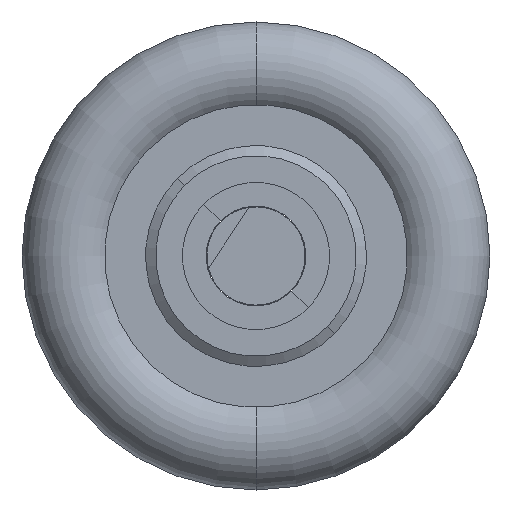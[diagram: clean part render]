
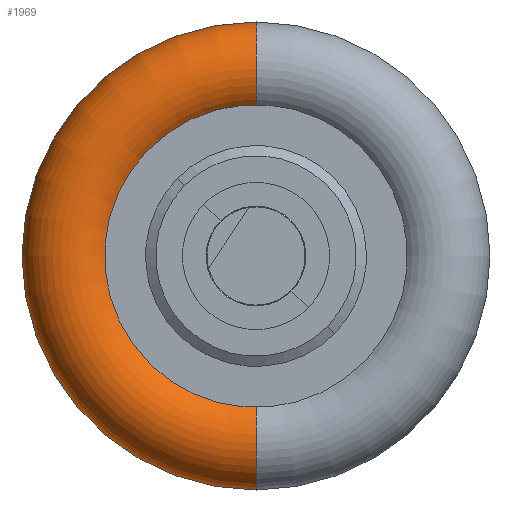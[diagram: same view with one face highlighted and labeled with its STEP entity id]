
A CAD part, left-side view. The second image highlights one B-rep face of the part: STEP entity #1969.
In plain terms, the highlighted toroidal (fillet/blend) face has major radius 22.727 mm and minor radius 5.875 mm.
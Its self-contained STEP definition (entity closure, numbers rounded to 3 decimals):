
#4 = VERTEX_POINT ( 'NONE', #2280 ) ;
#249 = AXIS2_PLACEMENT_3D ( 'NONE', #683, #1407, #2097 ) ;
#256 = EDGE_CURVE ( 'NONE', #894, #2054, #2323, .T. ) ;
#366 = DIRECTION ( 'NONE',  ( 0., 0., -1. ) ) ;
#380 = AXIS2_PLACEMENT_3D ( 'NONE', #739, #2009, #366 ) ;
#407 = CIRCLE ( 'NONE', #1979, 5.875 ) ;
#585 = VERTEX_POINT ( 'NONE', #1508 ) ;
#675 = AXIS2_PLACEMENT_3D ( 'NONE', #1976, #720, #1428 ) ;
#683 = CARTESIAN_POINT ( 'NONE',  ( 6631.588, -411.111, 22.727 ) ) ;
#720 = DIRECTION ( 'NONE',  ( 1., 0., 0. ) ) ;
#739 = CARTESIAN_POINT ( 'NONE',  ( 6631.588, -411.111, 0. ) ) ;
#894 = VERTEX_POINT ( 'NONE', #1347 ) ;
#1167 = CIRCLE ( 'NONE', #675, 17.002 ) ;
#1262 = EDGE_CURVE ( 'NONE', #585, #4, #1167, .T. ) ;
#1339 = DIRECTION ( 'NONE',  ( 0., -1., 0. ) ) ;
#1347 = CARTESIAN_POINT ( 'NONE',  ( 6631.588, -411.111, -28.602 ) ) ;
#1407 = DIRECTION ( 'NONE',  ( 0., 1., 0. ) ) ;
#1416 = TOROIDAL_SURFACE ( 'NONE', #380, 22.727, 5.875 ) ;
#1428 = DIRECTION ( 'NONE',  ( 0., 0., -1. ) ) ;
#1440 = DIRECTION ( 'NONE',  ( 1., 0., 0. ) ) ;
#1456 = ORIENTED_EDGE ( 'NONE', *, *, #1476, .F. ) ;
#1476 = EDGE_CURVE ( 'NONE', #585, #894, #407, .T. ) ;
#1508 = CARTESIAN_POINT ( 'NONE',  ( 6630.268, -411.111, -17.002 ) ) ;
#1535 = EDGE_CURVE ( 'NONE', #4, #2054, #1671, .T. ) ;
#1566 = ORIENTED_EDGE ( 'NONE', *, *, #1535, .T. ) ;
#1671 = CIRCLE ( 'NONE', #249, 5.875 ) ;
#1878 = AXIS2_PLACEMENT_3D ( 'NONE', #1992, #1440, #2177 ) ;
#1911 = DIRECTION ( 'NONE',  ( 0., 0., -1. ) ) ;
#1914 = CARTESIAN_POINT ( 'NONE',  ( 6631.588, -411.111, 28.602 ) ) ;
#1969 = ADVANCED_FACE ( 'NONE', ( #2352 ), #1416, .T. ) ;
#1976 = CARTESIAN_POINT ( 'NONE',  ( 6630.268, -411.111, 0. ) ) ;
#1979 = AXIS2_PLACEMENT_3D ( 'NONE', #2076, #1339, #1911 ) ;
#1992 = CARTESIAN_POINT ( 'NONE',  ( 6631.588, -411.111, 0. ) ) ;
#2009 = DIRECTION ( 'NONE',  ( 1., 0., 0. ) ) ;
#2054 = VERTEX_POINT ( 'NONE', #1914 ) ;
#2076 = CARTESIAN_POINT ( 'NONE',  ( 6631.588, -411.111, -22.727 ) ) ;
#2097 = DIRECTION ( 'NONE',  ( 0., 0., 1. ) ) ;
#2177 = DIRECTION ( 'NONE',  ( 0., 0., -1. ) ) ;
#2205 = EDGE_LOOP ( 'NONE', ( #2292, #1566, #2227, #1456 ) ) ;
#2227 = ORIENTED_EDGE ( 'NONE', *, *, #256, .F. ) ;
#2280 = CARTESIAN_POINT ( 'NONE',  ( 6630.268, -411.111, 17.002 ) ) ;
#2292 = ORIENTED_EDGE ( 'NONE', *, *, #1262, .T. ) ;
#2323 = CIRCLE ( 'NONE', #1878, 28.602 ) ;
#2352 = FACE_OUTER_BOUND ( 'NONE', #2205, .T. ) ;
